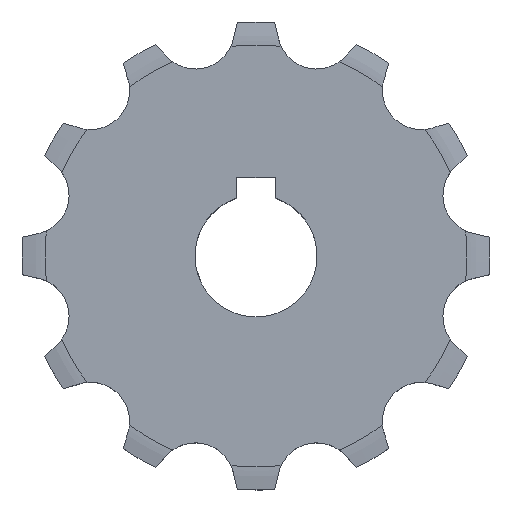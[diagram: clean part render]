
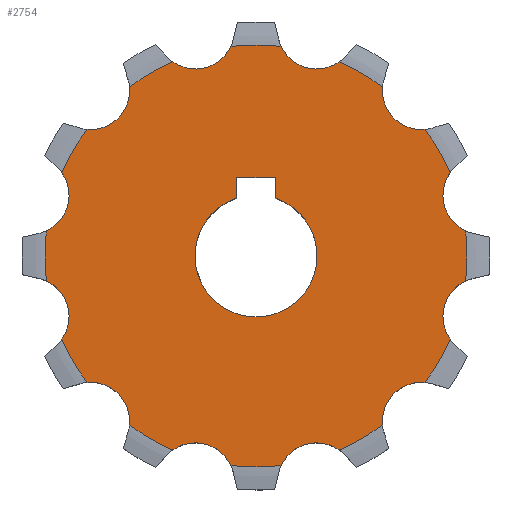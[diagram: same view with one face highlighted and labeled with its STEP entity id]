
A CAD part, top view. The second image highlights one B-rep face of the part: STEP entity #2754.
In plain terms, the highlighted planar face has unit normal (0, 0, 1).
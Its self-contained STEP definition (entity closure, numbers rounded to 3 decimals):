
#33=CARTESIAN_POINT('',(7.938,29.623,4.55));
#34=DIRECTION('',(0.,0.,1.));
#35=DIRECTION('',(-0.908,-0.42,0.));
#36=AXIS2_PLACEMENT_3D('',#33,#34,#35);
#42=CARTESIAN_POINT('',(0.,0.,4.55));
#43=DIRECTION('',(0.,0.,-1.));
#44=DIRECTION('',(0.394,0.919,0.));
#45=AXIS2_PLACEMENT_3D('',#42,#43,#44);
#50=CARTESIAN_POINT('',(21.686,21.686,4.55));
#51=DIRECTION('',(0.,0.,1.));
#52=DIRECTION('',(-0.996,0.09,0.));
#53=AXIS2_PLACEMENT_3D('',#50,#51,#52);
#58=CARTESIAN_POINT('',(0.,0.,4.55));
#59=DIRECTION('',(0.,0.,-1.));
#60=DIRECTION('',(0.801,0.599,0.));
#61=AXIS2_PLACEMENT_3D('',#58,#59,#60);
#66=CARTESIAN_POINT('',(29.623,7.938,4.55));
#67=DIRECTION('',(0.,0.,1.));
#68=DIRECTION('',(-0.817,0.576,0.));
#69=AXIS2_PLACEMENT_3D('',#66,#67,#68);
#74=CARTESIAN_POINT('',(0.,0.,4.55));
#75=DIRECTION('',(0.,0.,-1.));
#76=DIRECTION('',(0.993,0.119,0.));
#77=AXIS2_PLACEMENT_3D('',#74,#75,#76);
#82=CARTESIAN_POINT('',(29.623,-7.938,4.55));
#83=DIRECTION('',(0.,0.,1.));
#84=DIRECTION('',(-0.42,0.908,0.));
#85=AXIS2_PLACEMENT_3D('',#82,#83,#84);
#90=CARTESIAN_POINT('',(0.,0.,4.55));
#91=DIRECTION('',(0.,0.,-1.));
#92=DIRECTION('',(0.919,-0.394,0.));
#93=AXIS2_PLACEMENT_3D('',#90,#91,#92);
#98=CARTESIAN_POINT('',(21.686,-21.686,4.55));
#99=DIRECTION('',(0.,0.,1.));
#100=DIRECTION('',(0.09,0.996,0.));
#101=AXIS2_PLACEMENT_3D('',#98,#99,#100);
#106=CARTESIAN_POINT('',(0.,0.,4.55));
#107=DIRECTION('',(0.,0.,-1.));
#108=DIRECTION('',(0.599,-0.801,0.));
#109=AXIS2_PLACEMENT_3D('',#106,#107,#108);
#114=CARTESIAN_POINT('',(7.938,-29.623,4.55));
#115=DIRECTION('',(0.,0.,1.));
#116=DIRECTION('',(0.576,0.817,0.));
#117=AXIS2_PLACEMENT_3D('',#114,#115,#116);
#122=CARTESIAN_POINT('',(-7.938,-29.623,4.55));
#123=DIRECTION('',(0.,0.,1.));
#124=DIRECTION('',(0.908,0.42,0.));
#125=AXIS2_PLACEMENT_3D('',#122,#123,#124);
#130=CARTESIAN_POINT('',(0.,0.,4.55));
#131=DIRECTION('',(0.,0.,-1.));
#132=DIRECTION('',(-0.394,-0.919,0.));
#133=AXIS2_PLACEMENT_3D('',#130,#131,#132);
#138=CARTESIAN_POINT('',(-21.686,-21.686,4.55));
#139=DIRECTION('',(0.,0.,1.));
#140=DIRECTION('',(0.996,-0.09,0.));
#141=AXIS2_PLACEMENT_3D('',#138,#139,#140);
#146=CARTESIAN_POINT('',(0.,0.,4.55));
#147=DIRECTION('',(0.,0.,-1.));
#148=DIRECTION('',(-0.801,-0.599,0.));
#149=AXIS2_PLACEMENT_3D('',#146,#147,#148);
#154=CARTESIAN_POINT('',(-29.623,-7.938,4.55));
#155=DIRECTION('',(0.,0.,1.));
#156=DIRECTION('',(0.817,-0.576,0.));
#157=AXIS2_PLACEMENT_3D('',#154,#155,#156);
#162=CARTESIAN_POINT('',(0.,0.,4.55));
#163=DIRECTION('',(0.,0.,-1.));
#164=DIRECTION('',(-0.993,-0.119,0.));
#165=AXIS2_PLACEMENT_3D('',#162,#163,#164);
#170=CARTESIAN_POINT('',(-29.623,7.938,4.55));
#171=DIRECTION('',(0.,0.,1.));
#172=DIRECTION('',(0.42,-0.908,0.));
#173=AXIS2_PLACEMENT_3D('',#170,#171,#172);
#178=CARTESIAN_POINT('',(0.,0.,4.55));
#179=DIRECTION('',(0.,0.,-1.));
#180=DIRECTION('',(-0.919,0.394,0.));
#181=AXIS2_PLACEMENT_3D('',#178,#179,#180);
#186=CARTESIAN_POINT('',(-21.686,21.686,4.55));
#187=DIRECTION('',(0.,0.,1.));
#188=DIRECTION('',(-0.09,-0.996,0.));
#189=AXIS2_PLACEMENT_3D('',#186,#187,#188);
#194=CARTESIAN_POINT('',(0.,0.,4.55));
#195=DIRECTION('',(0.,0.,-1.));
#196=DIRECTION('',(-0.599,0.801,0.));
#197=AXIS2_PLACEMENT_3D('',#194,#195,#196);
#202=CARTESIAN_POINT('',(-7.938,29.623,4.55));
#203=DIRECTION('',(0.,0.,1.));
#204=DIRECTION('',(-0.576,-0.817,0.));
#205=AXIS2_PLACEMENT_3D('',#202,#203,#204);
#210=DIRECTION('',(0.,1.,0.));
#211=VECTOR('',#210,2.701);
#212=CARTESIAN_POINT('',(2.5,7.599,4.55));
#213=LINE('',#212,#211);
#217=DIRECTION('',(-1.,0.,0.));
#218=VECTOR('',#217,5.);
#219=CARTESIAN_POINT('',(2.5,10.3,4.55));
#220=LINE('',#219,#218);
#224=DIRECTION('',(0.,-1.,0.));
#225=VECTOR('',#224,2.701);
#226=CARTESIAN_POINT('',(-2.5,10.3,4.55));
#227=LINE('',#226,#225);
#255=CARTESIAN_POINT('',(0.,0.,4.55));
#256=DIRECTION('',(0.,0.,1.));
#257=DIRECTION('',(0.119,0.993,0.));
#258=AXIS2_PLACEMENT_3D('',#255,#256,#257);
#279=CARTESIAN_POINT('',(0.,0.,4.55));
#280=DIRECTION('',(0.,0.,1.));
#281=DIRECTION('',(-0.119,-0.993,0.));
#282=AXIS2_PLACEMENT_3D('',#279,#280,#281);
#1276=CARTESIAN_POINT('',(0.,0.,4.55));
#1277=DIRECTION('',(0.,0.,-1.));
#1278=DIRECTION('',(0.313,0.95,0.));
#1279=AXIS2_PLACEMENT_3D('',#1276,#1277,#1278);
#1396=CARTESIAN_POINT('',(-3.281,27.469,4.55));
#1676=CARTESIAN_POINT('',(-3.281,-27.469,4.55));
#2300=CARTESIAN_POINT('',(3.281,27.469,4.55));
#2399=CARTESIAN_POINT('',(10.893,25.429,4.55));
#2400=CARTESIAN_POINT('',(16.576,22.148,4.55));
#2401=VERTEX_POINT('',#2399);
#2402=VERTEX_POINT('',#2400);
#2403=CARTESIAN_POINT('',(22.148,16.576,4.55));
#2404=CARTESIAN_POINT('',(25.429,10.893,4.55));
#2405=VERTEX_POINT('',#2403);
#2406=VERTEX_POINT('',#2404);
#2407=CARTESIAN_POINT('',(27.469,3.281,4.55));
#2408=CARTESIAN_POINT('',(27.469,-3.281,4.55));
#2409=VERTEX_POINT('',#2407);
#2410=VERTEX_POINT('',#2408);
#2411=CARTESIAN_POINT('',(-10.893,-25.429,4.55));
#2412=CARTESIAN_POINT('',(-16.576,-22.148,4.55));
#2413=VERTEX_POINT('',#2411);
#2414=VERTEX_POINT('',#2412);
#2415=CARTESIAN_POINT('',(-22.148,-16.576,4.55));
#2416=CARTESIAN_POINT('',(-25.429,-10.893,4.55));
#2417=VERTEX_POINT('',#2415);
#2418=VERTEX_POINT('',#2416);
#2419=CARTESIAN_POINT('',(-27.469,-3.281,4.55));
#2420=CARTESIAN_POINT('',(-27.469,3.281,4.55));
#2421=VERTEX_POINT('',#2419);
#2422=VERTEX_POINT('',#2420);
#2448=VERTEX_POINT('',#2300);
#2464=VERTEX_POINT('',#1676);
#2471=CARTESIAN_POINT('',(25.429,-10.893,4.55));
#2472=VERTEX_POINT('',#2471);
#2475=CARTESIAN_POINT('',(22.148,-16.576,4.55));
#2476=CARTESIAN_POINT('',(16.576,-22.148,4.55));
#2477=VERTEX_POINT('',#2475);
#2478=VERTEX_POINT('',#2476);
#2483=CARTESIAN_POINT('',(10.893,-25.429,4.55));
#2484=CARTESIAN_POINT('',(3.281,-27.469,4.55));
#2485=VERTEX_POINT('',#2483);
#2486=VERTEX_POINT('',#2484);
#2515=CARTESIAN_POINT('',(-25.429,10.893,4.55));
#2516=CARTESIAN_POINT('',(-22.148,16.576,4.55));
#2517=VERTEX_POINT('',#2515);
#2518=VERTEX_POINT('',#2516);
#2519=CARTESIAN_POINT('',(-16.576,22.148,4.55));
#2520=CARTESIAN_POINT('',(-10.893,25.429,4.55));
#2521=VERTEX_POINT('',#2519);
#2522=VERTEX_POINT('',#2520);
#2641=CARTESIAN_POINT('',(2.5,7.599,4.55));
#2642=VERTEX_POINT('',#2641);
#2643=CARTESIAN_POINT('',(-2.5,7.599,4.55));
#2644=VERTEX_POINT('',#2643);
#2645=CARTESIAN_POINT('',(2.5,10.3,4.55));
#2646=VERTEX_POINT('',#2645);
#2647=CARTESIAN_POINT('',(-2.5,10.3,4.55));
#2648=VERTEX_POINT('',#2647);
#2684=VERTEX_POINT('',#1396);
#2689=CARTESIAN_POINT('',(0.,0.,4.55));
#2690=DIRECTION('',(0.,0.,1.));
#2691=DIRECTION('',(1.,0.,0.));
#2692=AXIS2_PLACEMENT_3D('',#2689,#2690,#2691);
#2693=PLANE('',#2692);
#2695=ORIENTED_EDGE('',*,*,#2694,.F.);
#2697=ORIENTED_EDGE('',*,*,#2696,.T.);
#2699=ORIENTED_EDGE('',*,*,#2698,.T.);
#2701=ORIENTED_EDGE('',*,*,#2700,.T.);
#2703=ORIENTED_EDGE('',*,*,#2702,.T.);
#2705=ORIENTED_EDGE('',*,*,#2704,.T.);
#2707=ORIENTED_EDGE('',*,*,#2706,.T.);
#2709=ORIENTED_EDGE('',*,*,#2708,.T.);
#2711=ORIENTED_EDGE('',*,*,#2710,.T.);
#2713=ORIENTED_EDGE('',*,*,#2712,.T.);
#2715=ORIENTED_EDGE('',*,*,#2714,.T.);
#2717=ORIENTED_EDGE('',*,*,#2716,.T.);
#2719=ORIENTED_EDGE('',*,*,#2718,.F.);
#2721=ORIENTED_EDGE('',*,*,#2720,.T.);
#2723=ORIENTED_EDGE('',*,*,#2722,.T.);
#2725=ORIENTED_EDGE('',*,*,#2724,.T.);
#2727=ORIENTED_EDGE('',*,*,#2726,.T.);
#2729=ORIENTED_EDGE('',*,*,#2728,.T.);
#2731=ORIENTED_EDGE('',*,*,#2730,.T.);
#2733=ORIENTED_EDGE('',*,*,#2732,.T.);
#2735=ORIENTED_EDGE('',*,*,#2734,.T.);
#2737=ORIENTED_EDGE('',*,*,#2736,.T.);
#2739=ORIENTED_EDGE('',*,*,#2738,.T.);
#2741=ORIENTED_EDGE('',*,*,#2740,.T.);
#2742=EDGE_LOOP('',(#2695,#2697,#2699,#2701,#2703,#2705,#2707,#2709,#2711,#2713,
#2715,#2717,#2719,#2721,#2723,#2725,#2727,#2729,#2731,#2733,#2735,#2737,#2739,
#2741));
#2743=FACE_OUTER_BOUND('',#2742,.F.);
#2745=ORIENTED_EDGE('',*,*,#2744,.T.);
#2747=ORIENTED_EDGE('',*,*,#2746,.T.);
#2749=ORIENTED_EDGE('',*,*,#2748,.T.);
#2751=ORIENTED_EDGE('',*,*,#2750,.F.);
#2752=EDGE_LOOP('',(#2745,#2747,#2749,#2751));
#2753=FACE_BOUND('',#2752,.F.);
#2754=ADVANCED_FACE('',(#2743,#2753),#2693,.T.);
#37=CIRCLE('',#36,5.131);
#46=CIRCLE('',#45,27.664);
#54=CIRCLE('',#53,5.131);
#62=CIRCLE('',#61,27.664);
#70=CIRCLE('',#69,5.131);
#78=CIRCLE('',#77,27.664);
#86=CIRCLE('',#85,5.131);
#94=CIRCLE('',#93,27.664);
#102=CIRCLE('',#101,5.131);
#110=CIRCLE('',#109,27.664);
#118=CIRCLE('',#117,5.131);
#126=CIRCLE('',#125,5.131);
#134=CIRCLE('',#133,27.664);
#142=CIRCLE('',#141,5.131);
#150=CIRCLE('',#149,27.664);
#158=CIRCLE('',#157,5.131);
#166=CIRCLE('',#165,27.664);
#174=CIRCLE('',#173,5.131);
#182=CIRCLE('',#181,27.664);
#190=CIRCLE('',#189,5.131);
#198=CIRCLE('',#197,27.664);
#206=CIRCLE('',#205,5.131);
#259=CIRCLE('',#258,27.664);
#283=CIRCLE('',#282,27.664);
#1280=CIRCLE('',#1279,8.);
#2694=EDGE_CURVE('',#2448,#2684,#259,.T.);
#2696=EDGE_CURVE('',#2448,#2401,#37,.T.);
#2698=EDGE_CURVE('',#2401,#2402,#46,.T.);
#2700=EDGE_CURVE('',#2402,#2405,#54,.T.);
#2702=EDGE_CURVE('',#2405,#2406,#62,.T.);
#2704=EDGE_CURVE('',#2406,#2409,#70,.T.);
#2706=EDGE_CURVE('',#2409,#2410,#78,.T.);
#2708=EDGE_CURVE('',#2410,#2472,#86,.T.);
#2710=EDGE_CURVE('',#2472,#2477,#94,.T.);
#2712=EDGE_CURVE('',#2477,#2478,#102,.T.);
#2714=EDGE_CURVE('',#2478,#2485,#110,.T.);
#2716=EDGE_CURVE('',#2485,#2486,#118,.T.);
#2718=EDGE_CURVE('',#2464,#2486,#283,.T.);
#2720=EDGE_CURVE('',#2464,#2413,#126,.T.);
#2722=EDGE_CURVE('',#2413,#2414,#134,.T.);
#2724=EDGE_CURVE('',#2414,#2417,#142,.T.);
#2726=EDGE_CURVE('',#2417,#2418,#150,.T.);
#2728=EDGE_CURVE('',#2418,#2421,#158,.T.);
#2730=EDGE_CURVE('',#2421,#2422,#166,.T.);
#2732=EDGE_CURVE('',#2422,#2517,#174,.T.);
#2734=EDGE_CURVE('',#2517,#2518,#182,.T.);
#2736=EDGE_CURVE('',#2518,#2521,#190,.T.);
#2738=EDGE_CURVE('',#2521,#2522,#198,.T.);
#2740=EDGE_CURVE('',#2522,#2684,#206,.T.);
#2744=EDGE_CURVE('',#2642,#2646,#213,.T.);
#2746=EDGE_CURVE('',#2646,#2648,#220,.T.);
#2748=EDGE_CURVE('',#2648,#2644,#227,.T.);
#2750=EDGE_CURVE('',#2642,#2644,#1280,.T.);
